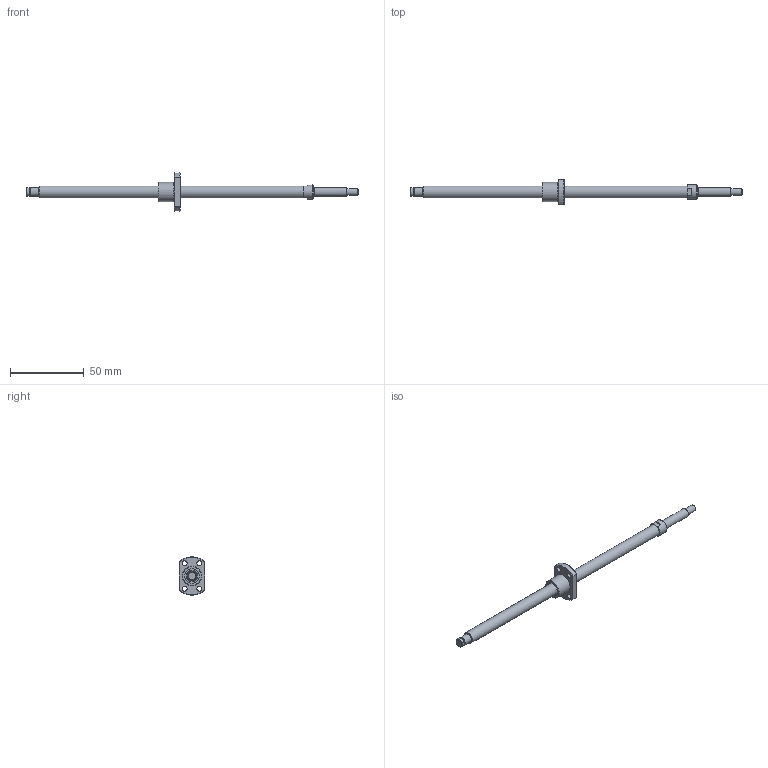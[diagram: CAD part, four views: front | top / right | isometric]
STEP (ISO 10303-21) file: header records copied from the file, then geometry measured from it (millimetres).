
FILE_DESCRIPTION(/* description */ ('STEP AP203'),/* implementation_level */ '2;1');
FILE_NAME(/* name */ 'BNK0801-3G0+225LC5Y(95.5)',/* time_stamp */ '2024-07-09T08:29:33+02:00',/* author */ ('License CC BY-ND 4.0'),/* organization */ ('CADENAS'),/* preprocessor_version */ 'ST-DEVELOPER v19.3',/* originating_system */ 'PARTsolutions',/* authorisation */ ' ');
FILE_SCHEMA (('CONFIG_CONTROL_DESIGN'));
Length unit declared in the file: millimetre
Products named in the file (3): BNK0801-3G0+225LC5Y(95.5); BNK 0801-3G0+225LC5Y Shaft; BNK 0801-3G0+225LC5Y Nut
Assembly tree (2 placements, depth 2):
  BNK0801-3G0+225LC5Y(95.5)
    BNK 0801-3G0+225LC5Y Shaft
    BNK 0801-3G0+225LC5Y Nut
Bounding box: 225 x 17 x 25.92 mm (x, y, z)
Volume: 12545.6 mm3; surface area: 7519.6 mm2
Topology: 2 solids, 2 shells, 50 faces, 101 edges, 64 vertices
Faces by surface type: plane 21, cylinder 18, cone 9, torus 2
Full cylindrical faces by diameter (mm): 3.4 x4, 4.5 x1, 5.7 x1, 6 x3, 8 x2, 9.5 x1, 10 x2, 12 x1, 13 x1
Entity records: 1295 total; most frequent: DIRECTION 226, CARTESIAN_POINT 217, ORIENTED_EDGE 154, AXIS2_PLACEMENT_3D 104, EDGE_LOOP 92, FACE_BOUND 92, EDGE_CURVE 77, VERTEX_POINT 63
